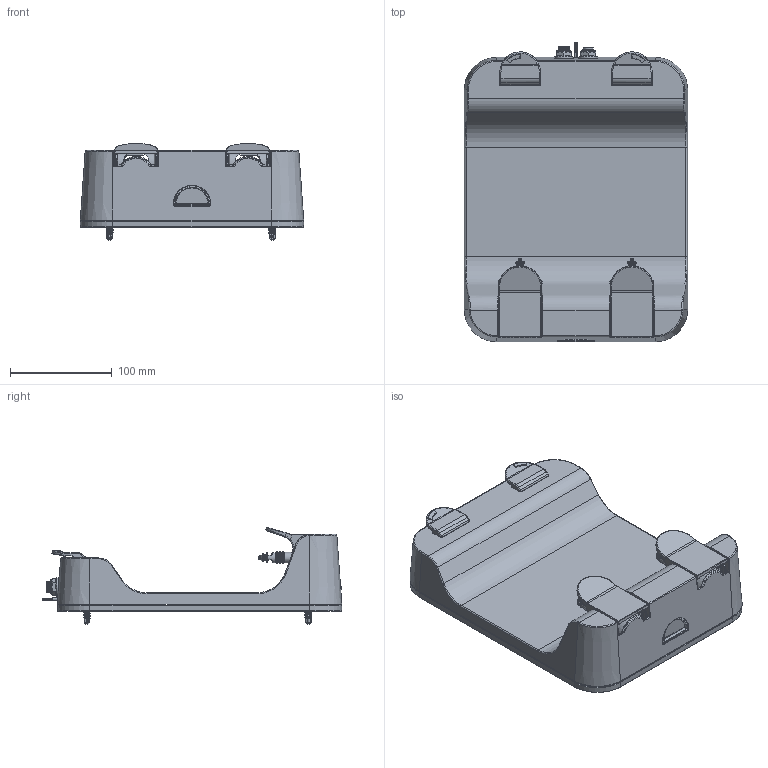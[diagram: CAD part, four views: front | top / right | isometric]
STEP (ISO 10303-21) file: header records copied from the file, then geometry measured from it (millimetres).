
FILE_DESCRIPTION (( 'STEP AP203' ), '1' );
FILE_NAME ('Seifenbox Beutel 2x.STEP', '2015-10-15T10:00:02', ( '' ), ( '' ), 'SwSTEP 2.0', 'SolidWorks 2012', '' );
FILE_SCHEMA (( 'CONFIG_CONTROL_DESIGN' ));
Products named in the file (1): Seifenbox Beutel 2x
Bounding box: 220 x 295.1 x 95.39 mm (x, y, z)
Surface area: 286509.7 mm2 (no closed solid volume)
Topology: 0 solids, 106 shells, 1199 faces, 4811 edges, 3561 vertices
Faces by surface type: bspline 315, cylinder 309, plane 267, cone 196, torus 112
Entity records: 70616 total; most frequent: CARTESIAN_POINT 36371, ORIENTED_EDGE 6908, DIRECTION 5973, EDGE_CURVE 4774, VERTEX_POINT 3561, AXIS2_PLACEMENT_3D 2176, VECTOR 1621, LINE 1621
